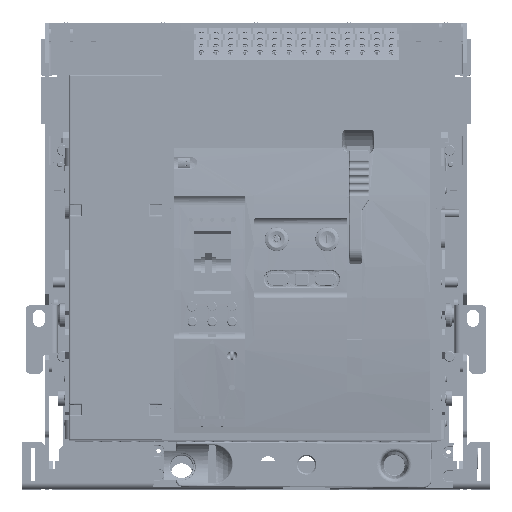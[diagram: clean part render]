
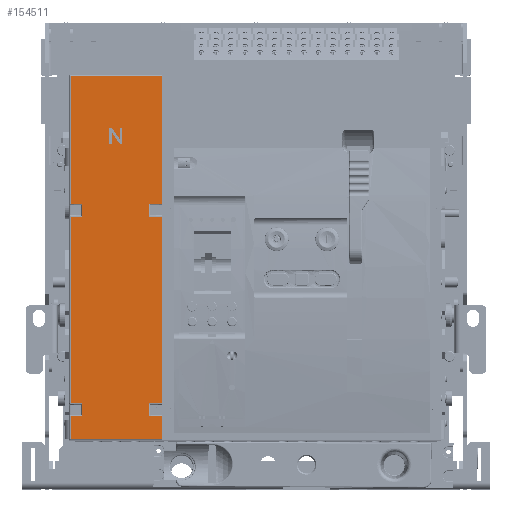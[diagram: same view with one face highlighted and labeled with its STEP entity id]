
A CAD part, top view. The second image highlights one B-rep face of the part: STEP entity #154511.
In plain terms, the highlighted planar face has unit normal (0, 0, 1).
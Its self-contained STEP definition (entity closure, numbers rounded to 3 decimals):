
#13317=FACE_BOUND('',#29717,.T.);
#20800=FACE_OUTER_BOUND('',#29716,.T.);
#29716=EDGE_LOOP('',(#140728,#140729,#140730,#140731,#140732,#140733,#140734,
#140735,#140736,#140737,#140738,#140739,#140740,#140741,#140742,#140743,
#140744,#140745,#140746,#140747));
#29717=EDGE_LOOP('',(#140748,#140749,#140750,#140751,#140752,#140753,#140754,
#140755,#140756,#140757));
#49643=LINE('',#275624,#65057);
#49656=LINE('',#275652,#65070);
#49660=LINE('',#275664,#65074);
#49665=LINE('',#275677,#65079);
#49666=LINE('',#275681,#65080);
#49667=LINE('',#275683,#65081);
#49668=LINE('',#275684,#65082);
#49669=LINE('',#275686,#65083);
#49670=LINE('',#275687,#65084);
#49671=LINE('',#275689,#65085);
#49672=LINE('',#275691,#65086);
#49673=LINE('',#275692,#65087);
#49674=LINE('',#275694,#65088);
#49675=LINE('',#275696,#65089);
#49676=LINE('',#275698,#65090);
#49677=LINE('',#275700,#65091);
#49678=LINE('',#275702,#65092);
#49679=LINE('',#275704,#65093);
#49680=LINE('',#275706,#65094);
#49681=LINE('',#275707,#65095);
#49682=LINE('',#275710,#65096);
#49683=LINE('',#275712,#65097);
#49684=LINE('',#275714,#65098);
#49685=LINE('',#275716,#65099);
#49686=LINE('',#275718,#65100);
#49687=LINE('',#275720,#65101);
#49688=LINE('',#275722,#65102);
#49689=LINE('',#275724,#65103);
#49690=LINE('',#275726,#65104);
#49691=LINE('',#275727,#65105);
#65057=VECTOR('',#209017,17.25);
#65070=VECTOR('',#209034,96.25);
#65074=VECTOR('',#209042,140.5);
#65079=VECTOR('',#209053,10.);
#65080=VECTOR('',#209056,9.);
#65081=VECTOR('',#209057,17.25);
#65082=VECTOR('',#209058,69.);
#65083=VECTOR('',#209059,9.5);
#65084=VECTOR('',#209060,10.);
#65085=VECTOR('',#209061,10.);
#65086=VECTOR('',#209062,9.5);
#65087=VECTOR('',#209063,10.);
#65088=VECTOR('',#209064,69.);
#65089=VECTOR('',#209065,96.25);
#65090=VECTOR('',#209066,9.);
#65091=VECTOR('',#209067,9.5);
#65092=VECTOR('',#209068,9.);
#65093=VECTOR('',#209069,140.5);
#65094=VECTOR('',#209070,9.);
#65095=VECTOR('',#209071,9.5);
#65096=VECTOR('',#209072,12.);
#65097=VECTOR('',#209073,2.);
#65098=VECTOR('',#209074,10.425);
#65099=VECTOR('',#209075,8.525);
#65100=VECTOR('',#209076,2.);
#65101=VECTOR('',#209077,12.);
#65102=VECTOR('',#209078,2.);
#65103=VECTOR('',#209079,10.425);
#65104=VECTOR('',#209080,8.525);
#65105=VECTOR('',#209081,2.);
#78810=VERTEX_POINT('',#275620);
#78812=VERTEX_POINT('',#275623);
#78824=VERTEX_POINT('',#275649);
#78825=VERTEX_POINT('',#275651);
#78830=VERTEX_POINT('',#275661);
#78831=VERTEX_POINT('',#275663);
#78836=VERTEX_POINT('',#275675);
#78837=VERTEX_POINT('',#275679);
#78838=VERTEX_POINT('',#275680);
#78839=VERTEX_POINT('',#275682);
#78840=VERTEX_POINT('',#275685);
#78841=VERTEX_POINT('',#275688);
#78842=VERTEX_POINT('',#275690);
#78843=VERTEX_POINT('',#275693);
#78844=VERTEX_POINT('',#275695);
#78845=VERTEX_POINT('',#275697);
#78846=VERTEX_POINT('',#275699);
#78847=VERTEX_POINT('',#275701);
#78848=VERTEX_POINT('',#275703);
#78849=VERTEX_POINT('',#275705);
#78850=VERTEX_POINT('',#275708);
#78851=VERTEX_POINT('',#275709);
#78852=VERTEX_POINT('',#275711);
#78853=VERTEX_POINT('',#275713);
#78854=VERTEX_POINT('',#275715);
#78855=VERTEX_POINT('',#275717);
#78856=VERTEX_POINT('',#275719);
#78857=VERTEX_POINT('',#275721);
#78858=VERTEX_POINT('',#275723);
#78859=VERTEX_POINT('',#275725);
#99548=EDGE_CURVE('',#78810,#78812,#49643,.T.);
#99563=EDGE_CURVE('',#78824,#78825,#49656,.T.);
#99569=EDGE_CURVE('',#78830,#78831,#49660,.T.);
#99576=EDGE_CURVE('',#78810,#78836,#49665,.T.);
#99577=EDGE_CURVE('',#78837,#78838,#49666,.T.);
#99578=EDGE_CURVE('',#78838,#78839,#49667,.T.);
#99579=EDGE_CURVE('',#78839,#78812,#49668,.T.);
#99580=EDGE_CURVE('',#78836,#78840,#49669,.T.);
#99581=EDGE_CURVE('',#78840,#78831,#49670,.T.);
#99582=EDGE_CURVE('',#78830,#78841,#49671,.T.);
#99583=EDGE_CURVE('',#78841,#78842,#49672,.T.);
#99584=EDGE_CURVE('',#78842,#78825,#49673,.T.);
#99585=EDGE_CURVE('',#78824,#78843,#49674,.T.);
#99586=EDGE_CURVE('',#78843,#78844,#49675,.T.);
#99587=EDGE_CURVE('',#78844,#78845,#49676,.T.);
#99588=EDGE_CURVE('',#78845,#78846,#49677,.T.);
#99589=EDGE_CURVE('',#78846,#78847,#49678,.T.);
#99590=EDGE_CURVE('',#78847,#78848,#49679,.T.);
#99591=EDGE_CURVE('',#78848,#78849,#49680,.T.);
#99592=EDGE_CURVE('',#78849,#78837,#49681,.T.);
#99593=EDGE_CURVE('',#78850,#78851,#49682,.T.);
#99594=EDGE_CURVE('',#78851,#78852,#49683,.T.);
#99595=EDGE_CURVE('',#78853,#78852,#49684,.T.);
#99596=EDGE_CURVE('',#78853,#78854,#49685,.T.);
#99597=EDGE_CURVE('',#78854,#78855,#49686,.T.);
#99598=EDGE_CURVE('',#78855,#78856,#49687,.T.);
#99599=EDGE_CURVE('',#78856,#78857,#49688,.T.);
#99600=EDGE_CURVE('',#78858,#78857,#49689,.T.);
#99601=EDGE_CURVE('',#78858,#78859,#49690,.T.);
#99602=EDGE_CURVE('',#78859,#78850,#49691,.T.);
#140728=ORIENTED_EDGE('',*,*,#99577,.T.);
#140729=ORIENTED_EDGE('',*,*,#99578,.T.);
#140730=ORIENTED_EDGE('',*,*,#99579,.T.);
#140731=ORIENTED_EDGE('',*,*,#99548,.F.);
#140732=ORIENTED_EDGE('',*,*,#99576,.T.);
#140733=ORIENTED_EDGE('',*,*,#99580,.T.);
#140734=ORIENTED_EDGE('',*,*,#99581,.T.);
#140735=ORIENTED_EDGE('',*,*,#99569,.F.);
#140736=ORIENTED_EDGE('',*,*,#99582,.T.);
#140737=ORIENTED_EDGE('',*,*,#99583,.T.);
#140738=ORIENTED_EDGE('',*,*,#99584,.T.);
#140739=ORIENTED_EDGE('',*,*,#99563,.F.);
#140740=ORIENTED_EDGE('',*,*,#99585,.T.);
#140741=ORIENTED_EDGE('',*,*,#99586,.T.);
#140742=ORIENTED_EDGE('',*,*,#99587,.T.);
#140743=ORIENTED_EDGE('',*,*,#99588,.T.);
#140744=ORIENTED_EDGE('',*,*,#99589,.T.);
#140745=ORIENTED_EDGE('',*,*,#99590,.T.);
#140746=ORIENTED_EDGE('',*,*,#99591,.T.);
#140747=ORIENTED_EDGE('',*,*,#99592,.T.);
#140748=ORIENTED_EDGE('',*,*,#99593,.T.);
#140749=ORIENTED_EDGE('',*,*,#99594,.T.);
#140750=ORIENTED_EDGE('',*,*,#99595,.F.);
#140751=ORIENTED_EDGE('',*,*,#99596,.T.);
#140752=ORIENTED_EDGE('',*,*,#99597,.T.);
#140753=ORIENTED_EDGE('',*,*,#99598,.T.);
#140754=ORIENTED_EDGE('',*,*,#99599,.T.);
#140755=ORIENTED_EDGE('',*,*,#99600,.F.);
#140756=ORIENTED_EDGE('',*,*,#99601,.T.);
#140757=ORIENTED_EDGE('',*,*,#99602,.T.);
#146957=PLANE('',#168395);
#154511=ADVANCED_FACE('',(#20800,#13317),#146957,.T.);
#168395=AXIS2_PLACEMENT_3D('',#275678,#209054,#209055);
#209017=DIRECTION('',(0.,-1.,0.));
#209034=DIRECTION('',(0.,-1.,0.));
#209042=DIRECTION('',(0.,-1.,0.));
#209053=DIRECTION('',(-1.,0.,0.));
#209054=DIRECTION('center_axis',(0.,0.,1.));
#209055=DIRECTION('ref_axis',(1.,0.,0.));
#209056=DIRECTION('',(-1.,0.,0.));
#209057=DIRECTION('',(0.,-1.,0.));
#209058=DIRECTION('',(1.,0.,0.));
#209059=DIRECTION('',(0.,1.,0.));
#209060=DIRECTION('',(1.,0.,0.));
#209061=DIRECTION('',(-1.,0.,0.));
#209062=DIRECTION('',(0.,1.,0.));
#209063=DIRECTION('',(1.,0.,0.));
#209064=DIRECTION('',(-1.,0.,0.));
#209065=DIRECTION('',(0.,-1.,0.));
#209066=DIRECTION('',(1.,0.,0.));
#209067=DIRECTION('',(0.,-1.,0.));
#209068=DIRECTION('',(-1.,0.,0.));
#209069=DIRECTION('',(0.,-1.,0.));
#209070=DIRECTION('',(1.,0.,0.));
#209071=DIRECTION('',(0.,-1.,0.));
#209072=DIRECTION('',(0.,1.,0.));
#209073=DIRECTION('',(1.,0.,0.));
#209074=DIRECTION('',(-0.576,0.818,0.));
#209075=DIRECTION('',(0.,1.,0.));
#209076=DIRECTION('',(1.,0.,0.));
#209077=DIRECTION('',(0.,-1.,0.));
#209078=DIRECTION('',(-1.,0.,0.));
#209079=DIRECTION('',(0.576,-0.818,0.));
#209080=DIRECTION('',(0.,-1.,0.));
#209081=DIRECTION('',(-1.,0.,0.));
#275620=CARTESIAN_POINT('',(70.,18.25,23.));
#275623=CARTESIAN_POINT('',(70.,1.,23.));
#275624=CARTESIAN_POINT('',(70.,18.25,23.));
#275649=CARTESIAN_POINT('',(70.,274.,23.));
#275651=CARTESIAN_POINT('',(70.,177.75,23.));
#275652=CARTESIAN_POINT('',(70.,274.,23.));
#275661=CARTESIAN_POINT('',(70.,168.25,23.));
#275663=CARTESIAN_POINT('',(70.,27.75,23.));
#275664=CARTESIAN_POINT('',(70.,168.25,23.));
#275675=CARTESIAN_POINT('',(60.,18.25,23.));
#275677=CARTESIAN_POINT('',(70.,18.25,23.));
#275678=CARTESIAN_POINT('Origin',(0.,0.,23.));
#275679=CARTESIAN_POINT('',(10.,18.25,23.));
#275680=CARTESIAN_POINT('',(1.,18.25,23.));
#275681=CARTESIAN_POINT('',(10.,18.25,23.));
#275682=CARTESIAN_POINT('',(1.,1.,23.));
#275683=CARTESIAN_POINT('',(1.,18.25,23.));
#275684=CARTESIAN_POINT('',(1.,1.,23.));
#275685=CARTESIAN_POINT('',(60.,27.75,23.));
#275686=CARTESIAN_POINT('',(60.,18.25,23.));
#275687=CARTESIAN_POINT('',(60.,27.75,23.));
#275688=CARTESIAN_POINT('',(60.,168.25,23.));
#275689=CARTESIAN_POINT('',(70.,168.25,23.));
#275690=CARTESIAN_POINT('',(60.,177.75,23.));
#275691=CARTESIAN_POINT('',(60.,168.25,23.));
#275692=CARTESIAN_POINT('',(60.,177.75,23.));
#275693=CARTESIAN_POINT('',(1.,274.,23.));
#275694=CARTESIAN_POINT('',(70.,274.,23.));
#275695=CARTESIAN_POINT('',(1.,177.75,23.));
#275696=CARTESIAN_POINT('',(1.,274.,23.));
#275697=CARTESIAN_POINT('',(10.,177.75,23.));
#275698=CARTESIAN_POINT('',(1.,177.75,23.));
#275699=CARTESIAN_POINT('',(10.,168.25,23.));
#275700=CARTESIAN_POINT('',(10.,177.75,23.));
#275701=CARTESIAN_POINT('',(1.,168.25,23.));
#275702=CARTESIAN_POINT('',(10.,168.25,23.));
#275703=CARTESIAN_POINT('',(1.,27.75,23.));
#275704=CARTESIAN_POINT('',(1.,168.25,23.));
#275705=CARTESIAN_POINT('',(10.,27.75,23.));
#275706=CARTESIAN_POINT('',(1.,27.75,23.));
#275707=CARTESIAN_POINT('',(10.,27.75,23.));
#275708=CARTESIAN_POINT('',(30.,223.,23.));
#275709=CARTESIAN_POINT('',(30.,235.,23.));
#275710=CARTESIAN_POINT('',(30.,223.,23.));
#275711=CARTESIAN_POINT('',(32.,235.,23.));
#275712=CARTESIAN_POINT('',(30.,235.,23.));
#275713=CARTESIAN_POINT('',(38.,226.475,23.));
#275714=CARTESIAN_POINT('',(38.,226.475,23.));
#275715=CARTESIAN_POINT('',(38.,235.,23.));
#275716=CARTESIAN_POINT('',(38.,226.475,23.));
#275717=CARTESIAN_POINT('',(40.,235.,23.));
#275718=CARTESIAN_POINT('',(38.,235.,23.));
#275719=CARTESIAN_POINT('',(40.,223.,23.));
#275720=CARTESIAN_POINT('',(40.,235.,23.));
#275721=CARTESIAN_POINT('',(38.,223.,23.));
#275722=CARTESIAN_POINT('',(40.,223.,23.));
#275723=CARTESIAN_POINT('',(32.,231.525,23.));
#275724=CARTESIAN_POINT('',(32.,231.525,23.));
#275725=CARTESIAN_POINT('',(32.,223.,23.));
#275726=CARTESIAN_POINT('',(32.,231.525,23.));
#275727=CARTESIAN_POINT('',(32.,223.,23.));
